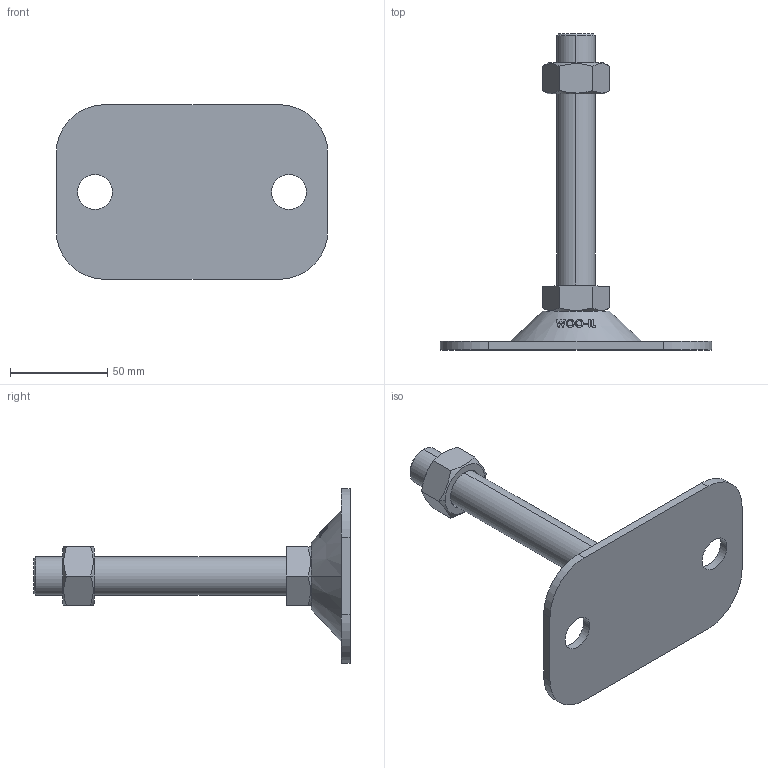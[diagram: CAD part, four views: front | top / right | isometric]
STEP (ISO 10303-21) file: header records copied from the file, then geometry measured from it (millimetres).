
FILE_DESCRIPTION (( 'STEP AP214' ), '1' );
FILE_NAME ('FABL90140-M20-130.step', '2021-03-28T23:53:19', ( '' ), ( '' ), 'SwSTEP 2.0', 'SolidWorks 2019', '' );
FILE_SCHEMA (( 'AUTOMOTIVE_DESIGN' ));
Length unit declared in the file: millimetre
Products named in the file (2): FABL90140-M20-130
Bounding box: 140 x 163 x 90 mm (x, y, z)
Volume: 143515.9 mm3; surface area: 39689.7 mm2
Topology: 2 solids, 2 shells, 130 faces, 333 edges, 218 vertices
Faces by surface type: plane 50, cylinder 40, cone 22, bspline 18
Entity records: 5583 total; most frequent: CARTESIAN_POINT 2625, ORIENTED_EDGE 666, DIRECTION 485, EDGE_CURVE 333, VERTEX_POINT 218, AXIS2_PLACEMENT_3D 178, EDGE_LOOP 147, B_SPLINE_CURVE_WITH_KNOTS 140
